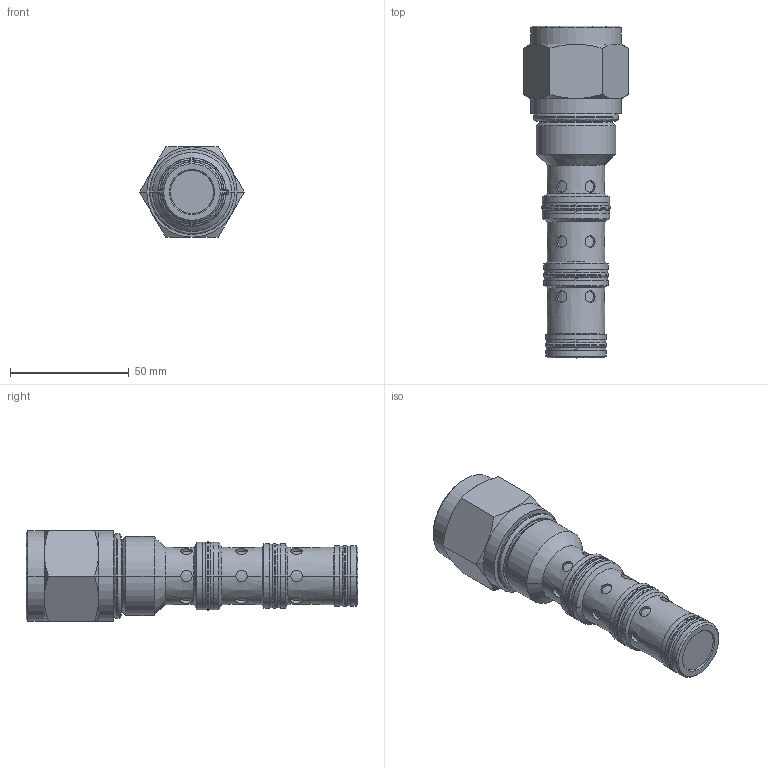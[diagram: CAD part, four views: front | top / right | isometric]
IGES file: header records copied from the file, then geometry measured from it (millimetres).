
Start section:  PTC IGES file: DCPS-16-A-F.igs
Global section: file name: DCPS-16-A-F.igs; native system: Creo Elements/Pro by Parametric Technology Corporation; preprocessor: 2015070; author: torrese; organization: Unknown; date: 20151222.112123; units: inch
Bounding box: 43.99 x 139.45 x 38.1 mm (x, y, z)
Volume: 102063.3 mm3; surface area: 17228.3 mm2
Topology: 1 solids, 1 shells, 203 faces, 450 edges, 270 vertices
Faces by surface type: revolution 164, bspline 39
